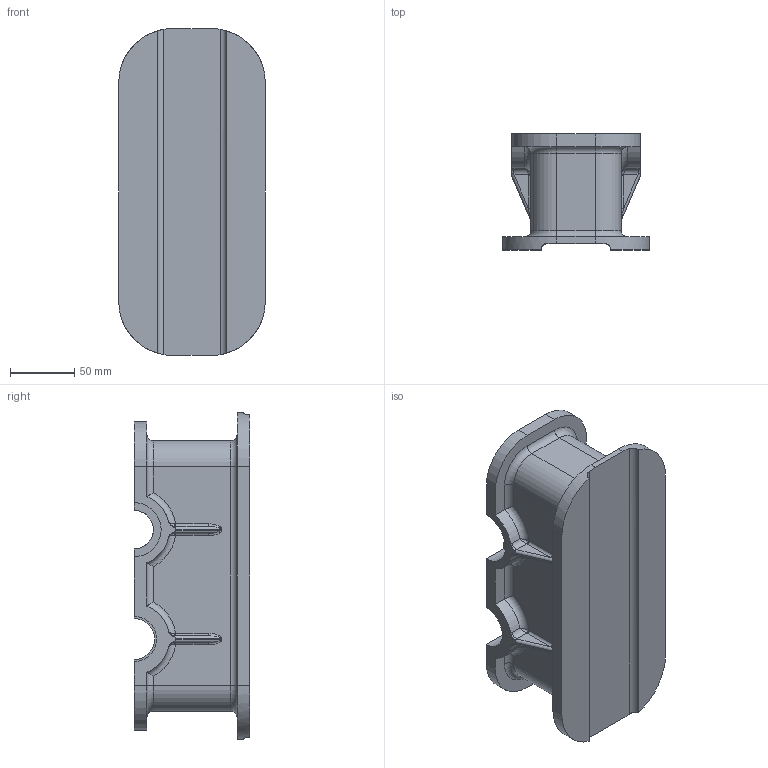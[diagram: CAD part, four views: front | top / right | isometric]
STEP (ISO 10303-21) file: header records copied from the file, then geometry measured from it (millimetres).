
FILE_DESCRIPTION(/* description */ (''),/* implementation_level */ '2;1');
FILE_NAME(/* name */ 'C:\Users\user\Desktop\Ensamble-reductor-sin-engranes-V2022\GearBox.stp',/* time_stamp */ '2023-02-15T20:27:40-05:00',/* author */ ('user'),/* organization */ (''),/* preprocessor_version */ 'ST-DEVELOPER v18.1',/* originating_system */ 'Autodesk Inventor 2022',/* authorisation */ '');
FILE_SCHEMA (('AUTOMOTIVE_DESIGN { 1 0 10303 214 3 1 1 }'));
Length unit declared in the file: millimetre
Products named in the file (1): GearBox
Bounding box: 114 x 90 x 254 mm (x, y, z)
Volume: 536321.2 mm3; surface area: 158253.1 mm2
Topology: 1 solids, 1 shells, 188 faces, 475 edges, 278 vertices
Faces by surface type: cylinder 79, plane 53, bspline 36, torus 16, cone 4
Full cylindrical faces by diameter (mm): 5 x1
Entity records: 7088 total; most frequent: CARTESIAN_POINT 2633, ORIENTED_EDGE 926, DIRECTION 887, EDGE_CURVE 463, AXIS2_PLACEMENT_3D 339, VERTEX_POINT 278, LINE 209, VECTOR 209
